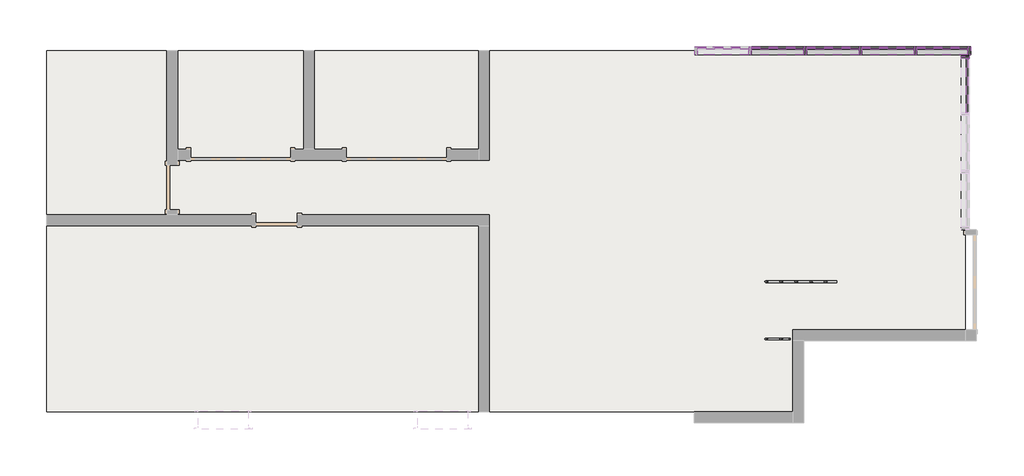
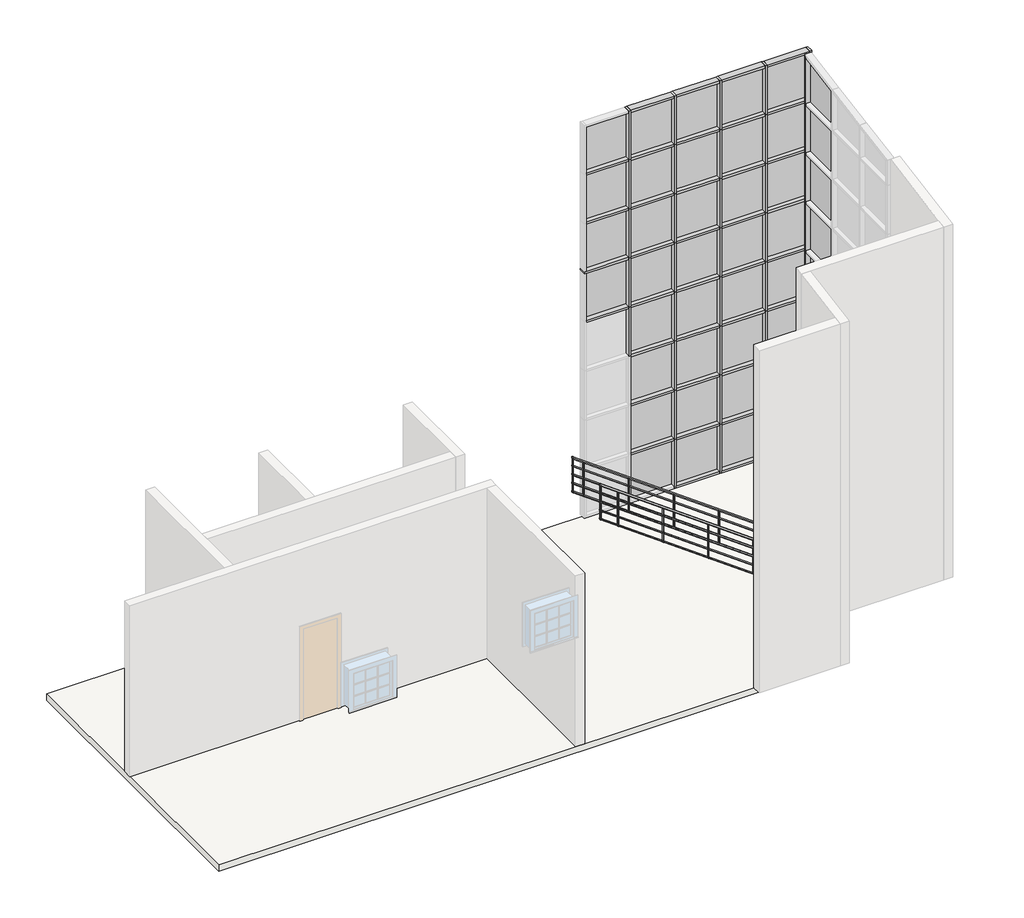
# One storey, part 2 of 2: 85 members, 44 plates, 2 railings, 1 slab.
"""IFC4 building model written with IfcOpenShell, lengths in millimetres."""

from ifc_helpers import new_model, si_unit, frame, origin, place, context, project, spatial, polyline, outline, extrude, transform, mapped, element, save
from components import member_50_x_150mm_038a97c0, member_50_x_150mm_b8228058, member_50_x_150mm_b83a1f72, member_50_x_150mm_bdf0faf1, member_50_x_150mm_050e1f32, member_50_x_150mm_622a95de, member_50_x_150mm_cac3cb24, member_50_x_150mm_0444148a, member_50_x_150mm_aa95aaac, member_50_x_150mm_ebe7889a, plate_c1ab5d1c, plate_5f0fc48b, plate_96cb0325, plate_49ade304, plate_24954efb, plate_39faa012, plate_04f62988, railing_fe238c61, railing_91144622

model = new_model("IFC4")

# Units and contexts
model_context = context("Model", 3, world=origin())
ifc_project = project(units=[si_unit("LENGTHUNIT", "METRE", prefix="MILLI")], contexts=[model_context])

# Site, building, storey
site = spatial("IfcSite", under=ifc_project)
building = spatial("IfcBuilding", under=site)
storey = spatial("IfcBuildingStorey", under=building, Name="01 下方樓層", Elevation=-4000.0)

# Members
placement = place(None, origin())
member_50_x_150mm_shape = member_50_x_150mm_038a97c0(model_context)
element("IfcMember", 1, ObjectType="矩形豎框 : 50 x 150mm", at=placement, inside=storey, context=model_context, shape_type="MappedRepresentation", body=[
    mapped(member_50_x_150mm_shape, transform((10552.9445117, 700.8362183, -4000.0), x_axis=(0.0, 0.0, -1.0), y_axis=(-1.0, 0.0, 0.0), z_axis=(0.0, 1.0, 0.0))),
])
member_50_x_150mm_2_shape = member_50_x_150mm_b8228058(model_context)
element("IfcMember", 2, ObjectType="矩形豎框 : 50 x 150mm", at=placement, inside=storey, context=model_context, shape_type="MappedRepresentation", body=[
    mapped(member_50_x_150mm_2_shape, transform((10552.9445117, 750.8362183, 5181.3907707), x_axis=(0.0, 1.0, 0.0), y_axis=(-1.0, 0.0, 0.0), z_axis=(0.0, 0.0, 1.0))),
])
member_50_x_150mm_3_shape = member_50_x_150mm_b83a1f72(model_context)
element("IfcMember", 3, ObjectType="矩形豎框 : 50 x 150mm", at=placement, inside=storey, context=model_context, shape_type="MappedRepresentation", body=[
    mapped(member_50_x_150mm_3_shape, transform((10552.9445117, 750.8362183, -2852.3261537), x_axis=(0.0, 1.0, 0.0), y_axis=(-1.0, 0.0, 0.0), z_axis=(0.0, 0.0, 1.0))),
])
element("IfcMember", 4, ObjectType="矩形豎框 : 50 x 150mm", at=placement, inside=storey, context=model_context, shape_type="MappedRepresentation", body=[
    mapped(member_50_x_150mm_3_shape, transform((10552.9445117, 750.8362183, -1704.6523073), x_axis=(0.0, 1.0, 0.0), y_axis=(-1.0, 0.0, 0.0), z_axis=(0.0, 0.0, 1.0))),
])
element("IfcMember", 5, ObjectType="矩形豎框 : 50 x 150mm", at=placement, inside=storey, context=model_context, shape_type="MappedRepresentation", body=[
    mapped(member_50_x_150mm_3_shape, transform((10552.9445117, 750.8362183, -556.978461), x_axis=(0.0, 1.0, 0.0), y_axis=(-1.0, 0.0, 0.0), z_axis=(0.0, 0.0, 1.0))),
])
element("IfcMember", 6, ObjectType="矩形豎框 : 50 x 150mm", at=placement, inside=storey, context=model_context, shape_type="MappedRepresentation", body=[
    mapped(member_50_x_150mm_3_shape, transform((10552.9445117, 750.8362183, 590.6953854), x_axis=(0.0, 1.0, 0.0), y_axis=(-1.0, 0.0, 0.0), z_axis=(0.0, 0.0, 1.0))),
])
element("IfcMember", 7, ObjectType="矩形豎框 : 50 x 150mm", at=placement, inside=storey, context=model_context, shape_type="MappedRepresentation", body=[
    mapped(member_50_x_150mm_3_shape, transform((10552.9445117, 750.8362183, 1738.3692317), x_axis=(0.0, 1.0, 0.0), y_axis=(-1.0, 0.0, 0.0), z_axis=(0.0, 0.0, 1.0))),
])
element("IfcMember", 8, ObjectType="矩形豎框 : 50 x 150mm", at=placement, inside=storey, context=model_context, shape_type="MappedRepresentation", body=[
    mapped(member_50_x_150mm_3_shape, transform((10552.9445117, 750.8362183, 2886.0430781), x_axis=(0.0, 1.0, 0.0), y_axis=(-1.0, 0.0, 0.0), z_axis=(0.0, 0.0, 1.0))),
])
element("IfcMember", 9, ObjectType="矩形豎框 : 50 x 150mm", at=placement, inside=storey, context=model_context, shape_type="MappedRepresentation", body=[
    mapped(member_50_x_150mm_3_shape, transform((10552.9445117, 750.8362183, 4033.7169244), x_axis=(0.0, 1.0, 0.0), y_axis=(-1.0, 0.0, 0.0), z_axis=(0.0, 0.0, 1.0))),
])
member_50_x_150mm_4_shape = member_50_x_150mm_bdf0faf1(model_context)
element("IfcMember", 10, ObjectType="矩形豎框 : 50 x 150mm", at=placement, inside=storey, context=model_context, shape_type="MappedRepresentation", body=[
    mapped(member_50_x_150mm_4_shape, transform((10602.9445117, 850.8362183, 5199.0234688), x_axis=(0.0, 0.0, 1.0), y_axis=(0.0, -1.0, 0.0), z_axis=(1.0, 0.0, 0.0))),
])
element("IfcMember", 11, ObjectType="矩形豎框 : 50 x 150mm", at=placement, inside=storey, context=model_context, shape_type="MappedRepresentation", body=[
    mapped(member_50_x_150mm_4_shape, transform((9669.784917, 850.8362183, -4000.0), x_axis=(0.0, 0.0, -1.0), y_axis=(0.0, -1.0, 0.0), z_axis=(-1.0, 0.0, 0.0))),
])
member_50_x_150mm_5_shape = member_50_x_150mm_050e1f32(model_context)
element("IfcMember", 12, ObjectType="矩形豎框 : 50 x 150mm", at=placement, inside=storey, context=model_context, shape_type="MappedRepresentation", body=[
    mapped(member_50_x_150mm_5_shape, transform((10652.9445117, 850.8362183, -4000.0), x_axis=(1.0, 0.0, 0.0), y_axis=(0.0, -1.0, 0.0), z_axis=(0.0, 0.0, -1.0))),
])
member_50_x_150mm_6_shape = member_50_x_150mm_622a95de(model_context)
element("IfcMember", 13, ObjectType="矩形豎框 : 50 x 150mm", at=placement, inside=storey, context=model_context, shape_type="MappedRepresentation", body=[
    mapped(member_50_x_150mm_6_shape, transform((7603.4657277, 850.8362183, 5199.0234688), x_axis=(0.0, 0.0, 1.0), y_axis=(0.0, -1.0, 0.0), z_axis=(1.0, 0.0, 0.0))),
])
element("IfcMember", 14, ObjectType="矩形豎框 : 50 x 150mm", at=placement, inside=storey, context=model_context, shape_type="MappedRepresentation", body=[
    mapped(member_50_x_150mm_6_shape, transform((8611.6253224, 850.8362183, 5199.0234688), x_axis=(0.0, 0.0, 1.0), y_axis=(0.0, -1.0, 0.0), z_axis=(1.0, 0.0, 0.0))),
])
element("IfcMember", 15, ObjectType="矩形豎框 : 50 x 150mm", at=placement, inside=storey, context=model_context, shape_type="MappedRepresentation", body=[
    mapped(member_50_x_150mm_6_shape, transform((9619.784917, 850.8362183, 5199.0234688), x_axis=(0.0, 0.0, 1.0), y_axis=(0.0, -1.0, 0.0), z_axis=(1.0, 0.0, 0.0))),
])
element("IfcMember", 16, ObjectType="矩形豎框 : 50 x 150mm", at=placement, inside=storey, context=model_context, shape_type="MappedRepresentation", body=[
    mapped(member_50_x_150mm_6_shape, transform((7653.4657277, 850.8362183, -4000.0), x_axis=(0.0, 0.0, -1.0), y_axis=(0.0, -1.0, 0.0), z_axis=(-1.0, 0.0, 0.0))),
])
element("IfcMember", 17, ObjectType="矩形豎框 : 50 x 150mm", at=placement, inside=storey, context=model_context, shape_type="MappedRepresentation", body=[
    mapped(member_50_x_150mm_6_shape, transform((8661.6253224, 850.8362183, -4000.0), x_axis=(0.0, 0.0, -1.0), y_axis=(0.0, -1.0, 0.0), z_axis=(-1.0, 0.0, 0.0))),
])
element("IfcMember", 18, ObjectType="矩形豎框 : 50 x 150mm", at=placement, inside=storey, context=model_context, shape_type="MappedRepresentation", body=[
    mapped(member_50_x_150mm_5_shape, transform((10652.9445117, 850.8362183, -2850.1220664), x_axis=(1.0, 0.0, 0.0), y_axis=(0.0, -1.0, 0.0), z_axis=(0.0, 0.0, -1.0))),
])
element("IfcMember", 19, ObjectType="矩形豎框 : 50 x 150mm", at=placement, inside=storey, context=model_context, shape_type="MappedRepresentation", body=[
    mapped(member_50_x_150mm_5_shape, transform((10652.9445117, 850.8362183, -1700.2441328), x_axis=(1.0, 0.0, 0.0), y_axis=(0.0, -1.0, 0.0), z_axis=(0.0, 0.0, -1.0))),
])
element("IfcMember", 20, ObjectType="矩形豎框 : 50 x 150mm", at=placement, inside=storey, context=model_context, shape_type="MappedRepresentation", body=[
    mapped(member_50_x_150mm_5_shape, transform((10652.9445117, 850.8362183, -550.3661992), x_axis=(1.0, 0.0, 0.0), y_axis=(0.0, -1.0, 0.0), z_axis=(0.0, 0.0, -1.0))),
])
element("IfcMember", 21, ObjectType="矩形豎框 : 50 x 150mm", at=placement, inside=storey, context=model_context, shape_type="MappedRepresentation", body=[
    mapped(member_50_x_150mm_5_shape, transform((10652.9445117, 850.8362183, 599.5117344), x_axis=(1.0, 0.0, 0.0), y_axis=(0.0, -1.0, 0.0), z_axis=(0.0, 0.0, -1.0))),
])
element("IfcMember", 22, ObjectType="矩形豎框 : 50 x 150mm", at=placement, inside=storey, context=model_context, shape_type="MappedRepresentation", body=[
    mapped(member_50_x_150mm_5_shape, transform((10652.9445117, 850.8362183, 1749.389668), x_axis=(1.0, 0.0, 0.0), y_axis=(0.0, -1.0, 0.0), z_axis=(0.0, 0.0, -1.0))),
])
element("IfcMember", 23, ObjectType="矩形豎框 : 50 x 150mm", at=placement, inside=storey, context=model_context, shape_type="MappedRepresentation", body=[
    mapped(member_50_x_150mm_5_shape, transform((10652.9445117, 850.8362183, 2899.2676016), x_axis=(1.0, 0.0, 0.0), y_axis=(0.0, -1.0, 0.0), z_axis=(0.0, 0.0, -1.0))),
])
member_50_x_150mm_7_shape = member_50_x_150mm_cac3cb24(model_context)
element("IfcMember", 24, ObjectType="矩形豎框 : 50 x 150mm", at=placement, inside=storey, context=model_context, shape_type="MappedRepresentation", body=[
    mapped(member_50_x_150mm_7_shape, transform((10602.9445117, 850.8362183, -2850.1220664), x_axis=(0.0, 0.0, 1.0), y_axis=(0.0, -1.0, 0.0), z_axis=(1.0, 0.0, 0.0))),
])
element("IfcMember", 25, ObjectType="矩形豎框 : 50 x 150mm", at=placement, inside=storey, context=model_context, shape_type="MappedRepresentation", body=[
    mapped(member_50_x_150mm_7_shape, transform((10602.9445117, 850.8362183, -1700.2441328), x_axis=(0.0, 0.0, 1.0), y_axis=(0.0, -1.0, 0.0), z_axis=(1.0, 0.0, 0.0))),
])
element("IfcMember", 26, ObjectType="矩形豎框 : 50 x 150mm", at=placement, inside=storey, context=model_context, shape_type="MappedRepresentation", body=[
    mapped(member_50_x_150mm_7_shape, transform((10602.9445117, 850.8362183, -550.3661992), x_axis=(0.0, 0.0, 1.0), y_axis=(0.0, -1.0, 0.0), z_axis=(1.0, 0.0, 0.0))),
])
element("IfcMember", 27, ObjectType="矩形豎框 : 50 x 150mm", at=placement, inside=storey, context=model_context, shape_type="MappedRepresentation", body=[
    mapped(member_50_x_150mm_7_shape, transform((6595.3061331, 850.8362183, 599.5117344), x_axis=(0.0, 0.0, 1.0), y_axis=(0.0, -1.0, 0.0), z_axis=(1.0, 0.0, 0.0))),
])
element("IfcMember", 28, ObjectType="矩形豎框 : 50 x 150mm", at=placement, inside=storey, context=model_context, shape_type="MappedRepresentation", body=[
    mapped(member_50_x_150mm_7_shape, transform((10602.9445117, 850.8362183, 599.5117344), x_axis=(0.0, 0.0, 1.0), y_axis=(0.0, -1.0, 0.0), z_axis=(1.0, 0.0, 0.0))),
])
element("IfcMember", 29, ObjectType="矩形豎框 : 50 x 150mm", at=placement, inside=storey, context=model_context, shape_type="MappedRepresentation", body=[
    mapped(member_50_x_150mm_7_shape, transform((10602.9445117, 850.8362183, 1749.389668), x_axis=(0.0, 0.0, 1.0), y_axis=(0.0, -1.0, 0.0), z_axis=(1.0, 0.0, 0.0))),
])
element("IfcMember", 30, ObjectType="矩形豎框 : 50 x 150mm", at=placement, inside=storey, context=model_context, shape_type="MappedRepresentation", body=[
    mapped(member_50_x_150mm_7_shape, transform((6595.3061331, 850.8362183, 2899.2676016), x_axis=(0.0, 0.0, 1.0), y_axis=(0.0, -1.0, 0.0), z_axis=(1.0, 0.0, 0.0))),
])
element("IfcMember", 31, ObjectType="矩形豎框 : 50 x 150mm", at=placement, inside=storey, context=model_context, shape_type="MappedRepresentation", body=[
    mapped(member_50_x_150mm_7_shape, transform((10602.9445117, 850.8362183, 2899.2676016), x_axis=(0.0, 0.0, 1.0), y_axis=(0.0, -1.0, 0.0), z_axis=(1.0, 0.0, 0.0))),
])
element("IfcMember", 32, ObjectType="矩形豎框 : 50 x 150mm", at=placement, inside=storey, context=model_context, shape_type="MappedRepresentation", body=[
    mapped(member_50_x_150mm_7_shape, transform((6595.3061331, 850.8362183, 4049.1455352), x_axis=(0.0, 0.0, 1.0), y_axis=(0.0, -1.0, 0.0), z_axis=(1.0, 0.0, 0.0))),
])
element("IfcMember", 33, ObjectType="矩形豎框 : 50 x 150mm", at=placement, inside=storey, context=model_context, shape_type="MappedRepresentation", body=[
    mapped(member_50_x_150mm_7_shape, transform((10602.9445117, 850.8362183, 4049.1455352), x_axis=(0.0, 0.0, 1.0), y_axis=(0.0, -1.0, 0.0), z_axis=(1.0, 0.0, 0.0))),
])
member_50_x_150mm_8_shape = member_50_x_150mm_0444148a(model_context)
element("IfcMember", 34, ObjectType="矩形豎框 : 50 x 150mm", at=placement, inside=storey, context=model_context, shape_type="MappedRepresentation", body=[
    mapped(member_50_x_150mm_8_shape, transform((7603.4657277, 850.8362183, -2850.1220664), x_axis=(0.0, 0.0, 1.0), y_axis=(0.0, -1.0, 0.0), z_axis=(1.0, 0.0, 0.0))),
])
element("IfcMember", 35, ObjectType="矩形豎框 : 50 x 150mm", at=placement, inside=storey, context=model_context, shape_type="MappedRepresentation", body=[
    mapped(member_50_x_150mm_8_shape, transform((8611.6253224, 850.8362183, -2850.1220664), x_axis=(0.0, 0.0, 1.0), y_axis=(0.0, -1.0, 0.0), z_axis=(1.0, 0.0, 0.0))),
])
element("IfcMember", 36, ObjectType="矩形豎框 : 50 x 150mm", at=placement, inside=storey, context=model_context, shape_type="MappedRepresentation", body=[
    mapped(member_50_x_150mm_8_shape, transform((9619.784917, 850.8362183, -2850.1220664), x_axis=(0.0, 0.0, 1.0), y_axis=(0.0, -1.0, 0.0), z_axis=(1.0, 0.0, 0.0))),
])
element("IfcMember", 37, ObjectType="矩形豎框 : 50 x 150mm", at=placement, inside=storey, context=model_context, shape_type="MappedRepresentation", body=[
    mapped(member_50_x_150mm_8_shape, transform((7603.4657277, 850.8362183, -1700.2441328), x_axis=(0.0, 0.0, 1.0), y_axis=(0.0, -1.0, 0.0), z_axis=(1.0, 0.0, 0.0))),
])
element("IfcMember", 38, ObjectType="矩形豎框 : 50 x 150mm", at=placement, inside=storey, context=model_context, shape_type="MappedRepresentation", body=[
    mapped(member_50_x_150mm_8_shape, transform((8611.6253224, 850.8362183, -1700.2441328), x_axis=(0.0, 0.0, 1.0), y_axis=(0.0, -1.0, 0.0), z_axis=(1.0, 0.0, 0.0))),
])
element("IfcMember", 39, ObjectType="矩形豎框 : 50 x 150mm", at=placement, inside=storey, context=model_context, shape_type="MappedRepresentation", body=[
    mapped(member_50_x_150mm_8_shape, transform((9619.784917, 850.8362183, -1700.2441328), x_axis=(0.0, 0.0, 1.0), y_axis=(0.0, -1.0, 0.0), z_axis=(1.0, 0.0, 0.0))),
])
element("IfcMember", 40, ObjectType="矩形豎框 : 50 x 150mm", at=placement, inside=storey, context=model_context, shape_type="MappedRepresentation", body=[
    mapped(member_50_x_150mm_8_shape, transform((7603.4657277, 850.8362183, -550.3661992), x_axis=(0.0, 0.0, 1.0), y_axis=(0.0, -1.0, 0.0), z_axis=(1.0, 0.0, 0.0))),
])
element("IfcMember", 41, ObjectType="矩形豎框 : 50 x 150mm", at=placement, inside=storey, context=model_context, shape_type="MappedRepresentation", body=[
    mapped(member_50_x_150mm_8_shape, transform((8611.6253224, 850.8362183, -550.3661992), x_axis=(0.0, 0.0, 1.0), y_axis=(0.0, -1.0, 0.0), z_axis=(1.0, 0.0, 0.0))),
])
element("IfcMember", 42, ObjectType="矩形豎框 : 50 x 150mm", at=placement, inside=storey, context=model_context, shape_type="MappedRepresentation", body=[
    mapped(member_50_x_150mm_8_shape, transform((9619.784917, 850.8362183, -550.3661992), x_axis=(0.0, 0.0, 1.0), y_axis=(0.0, -1.0, 0.0), z_axis=(1.0, 0.0, 0.0))),
])
element("IfcMember", 43, ObjectType="矩形豎框 : 50 x 150mm", at=placement, inside=storey, context=model_context, shape_type="MappedRepresentation", body=[
    mapped(member_50_x_150mm_8_shape, transform((7603.4657277, 850.8362183, 599.5117344), x_axis=(0.0, 0.0, 1.0), y_axis=(0.0, -1.0, 0.0), z_axis=(1.0, 0.0, 0.0))),
])
element("IfcMember", 44, ObjectType="矩形豎框 : 50 x 150mm", at=placement, inside=storey, context=model_context, shape_type="MappedRepresentation", body=[
    mapped(member_50_x_150mm_8_shape, transform((8611.6253224, 850.8362183, 599.5117344), x_axis=(0.0, 0.0, 1.0), y_axis=(0.0, -1.0, 0.0), z_axis=(1.0, 0.0, 0.0))),
])
element("IfcMember", 45, ObjectType="矩形豎框 : 50 x 150mm", at=placement, inside=storey, context=model_context, shape_type="MappedRepresentation", body=[
    mapped(member_50_x_150mm_8_shape, transform((9619.784917, 850.8362183, 599.5117344), x_axis=(0.0, 0.0, 1.0), y_axis=(0.0, -1.0, 0.0), z_axis=(1.0, 0.0, 0.0))),
])
element("IfcMember", 46, ObjectType="矩形豎框 : 50 x 150mm", at=placement, inside=storey, context=model_context, shape_type="MappedRepresentation", body=[
    mapped(member_50_x_150mm_8_shape, transform((7603.4657277, 850.8362183, 1749.389668), x_axis=(0.0, 0.0, 1.0), y_axis=(0.0, -1.0, 0.0), z_axis=(1.0, 0.0, 0.0))),
])
element("IfcMember", 47, ObjectType="矩形豎框 : 50 x 150mm", at=placement, inside=storey, context=model_context, shape_type="MappedRepresentation", body=[
    mapped(member_50_x_150mm_8_shape, transform((8611.6253224, 850.8362183, 1749.389668), x_axis=(0.0, 0.0, 1.0), y_axis=(0.0, -1.0, 0.0), z_axis=(1.0, 0.0, 0.0))),
])
element("IfcMember", 48, ObjectType="矩形豎框 : 50 x 150mm", at=placement, inside=storey, context=model_context, shape_type="MappedRepresentation", body=[
    mapped(member_50_x_150mm_8_shape, transform((9619.784917, 850.8362183, 1749.389668), x_axis=(0.0, 0.0, 1.0), y_axis=(0.0, -1.0, 0.0), z_axis=(1.0, 0.0, 0.0))),
])
element("IfcMember", 49, ObjectType="矩形豎框 : 50 x 150mm", at=placement, inside=storey, context=model_context, shape_type="MappedRepresentation", body=[
    mapped(member_50_x_150mm_8_shape, transform((7603.4657277, 850.8362183, 2899.2676016), x_axis=(0.0, 0.0, 1.0), y_axis=(0.0, -1.0, 0.0), z_axis=(1.0, 0.0, 0.0))),
])
element("IfcMember", 50, ObjectType="矩形豎框 : 50 x 150mm", at=placement, inside=storey, context=model_context, shape_type="MappedRepresentation", body=[
    mapped(member_50_x_150mm_8_shape, transform((8611.6253224, 850.8362183, 2899.2676016), x_axis=(0.0, 0.0, 1.0), y_axis=(0.0, -1.0, 0.0), z_axis=(1.0, 0.0, 0.0))),
])
element("IfcMember", 51, ObjectType="矩形豎框 : 50 x 150mm", at=placement, inside=storey, context=model_context, shape_type="MappedRepresentation", body=[
    mapped(member_50_x_150mm_8_shape, transform((9619.784917, 850.8362183, 2899.2676016), x_axis=(0.0, 0.0, 1.0), y_axis=(0.0, -1.0, 0.0), z_axis=(1.0, 0.0, 0.0))),
])
element("IfcMember", 52, ObjectType="矩形豎框 : 50 x 150mm", at=placement, inside=storey, context=model_context, shape_type="MappedRepresentation", body=[
    mapped(member_50_x_150mm_8_shape, transform((7603.4657277, 850.8362183, 4049.1455352), x_axis=(0.0, 0.0, 1.0), y_axis=(0.0, -1.0, 0.0), z_axis=(1.0, 0.0, 0.0))),
])
element("IfcMember", 53, ObjectType="矩形豎框 : 50 x 150mm", at=placement, inside=storey, context=model_context, shape_type="MappedRepresentation", body=[
    mapped(member_50_x_150mm_8_shape, transform((8611.6253224, 850.8362183, 4049.1455352), x_axis=(0.0, 0.0, 1.0), y_axis=(0.0, -1.0, 0.0), z_axis=(1.0, 0.0, 0.0))),
])
element("IfcMember", 54, ObjectType="矩形豎框 : 50 x 150mm", at=placement, inside=storey, context=model_context, shape_type="MappedRepresentation", body=[
    mapped(member_50_x_150mm_8_shape, transform((9619.784917, 850.8362183, 4049.1455352), x_axis=(0.0, 0.0, 1.0), y_axis=(0.0, -1.0, 0.0), z_axis=(1.0, 0.0, 0.0))),
])
member_50_x_150mm_9_shape = member_50_x_150mm_aa95aaac(model_context)
element("IfcMember", 55, ObjectType="矩形豎框 : 50 x 150mm", at=placement, inside=storey, context=model_context, shape_type="MappedRepresentation", body=[
    mapped(member_50_x_150mm_9_shape, transform((7628.4657277, 850.8362183, -4000.0), x_axis=(1.0, 0.0, 0.0), y_axis=(0.0, -1.0, 0.0), z_axis=(0.0, 0.0, -1.0))),
])
element("IfcMember", 56, ObjectType="矩形豎框 : 50 x 150mm", at=placement, inside=storey, context=model_context, shape_type="MappedRepresentation", body=[
    mapped(member_50_x_150mm_9_shape, transform((8636.6253224, 850.8362183, -4000.0), x_axis=(1.0, 0.0, 0.0), y_axis=(0.0, -1.0, 0.0), z_axis=(0.0, 0.0, -1.0))),
])
element("IfcMember", 57, ObjectType="矩形豎框 : 50 x 150mm", at=placement, inside=storey, context=model_context, shape_type="MappedRepresentation", body=[
    mapped(member_50_x_150mm_9_shape, transform((9644.784917, 850.8362183, -4000.0), x_axis=(1.0, 0.0, 0.0), y_axis=(0.0, -1.0, 0.0), z_axis=(0.0, 0.0, -1.0))),
])
element("IfcMember", 58, ObjectType="矩形豎框 : 50 x 150mm", at=placement, inside=storey, context=model_context, shape_type="MappedRepresentation", body=[
    mapped(member_50_x_150mm_9_shape, transform((7628.4657277, 850.8362183, -2850.1220664), x_axis=(1.0, 0.0, 0.0), y_axis=(0.0, -1.0, 0.0), z_axis=(0.0, 0.0, -1.0))),
])
element("IfcMember", 59, ObjectType="矩形豎框 : 50 x 150mm", at=placement, inside=storey, context=model_context, shape_type="MappedRepresentation", body=[
    mapped(member_50_x_150mm_9_shape, transform((8636.6253224, 850.8362183, -2850.1220664), x_axis=(1.0, 0.0, 0.0), y_axis=(0.0, -1.0, 0.0), z_axis=(0.0, 0.0, -1.0))),
])
element("IfcMember", 60, ObjectType="矩形豎框 : 50 x 150mm", at=placement, inside=storey, context=model_context, shape_type="MappedRepresentation", body=[
    mapped(member_50_x_150mm_9_shape, transform((7628.4657277, 850.8362183, -1700.2441328), x_axis=(1.0, 0.0, 0.0), y_axis=(0.0, -1.0, 0.0), z_axis=(0.0, 0.0, -1.0))),
])
element("IfcMember", 61, ObjectType="矩形豎框 : 50 x 150mm", at=placement, inside=storey, context=model_context, shape_type="MappedRepresentation", body=[
    mapped(member_50_x_150mm_9_shape, transform((8636.6253224, 850.8362183, -1700.2441328), x_axis=(1.0, 0.0, 0.0), y_axis=(0.0, -1.0, 0.0), z_axis=(0.0, 0.0, -1.0))),
])
element("IfcMember", 62, ObjectType="矩形豎框 : 50 x 150mm", at=placement, inside=storey, context=model_context, shape_type="MappedRepresentation", body=[
    mapped(member_50_x_150mm_9_shape, transform((6620.3061331, 850.8362183, -550.3661992), x_axis=(1.0, 0.0, 0.0), y_axis=(0.0, -1.0, 0.0), z_axis=(0.0, 0.0, -1.0))),
])
element("IfcMember", 63, ObjectType="矩形豎框 : 50 x 150mm", at=placement, inside=storey, context=model_context, shape_type="MappedRepresentation", body=[
    mapped(member_50_x_150mm_9_shape, transform((7628.4657277, 850.8362183, -550.3661992), x_axis=(1.0, 0.0, 0.0), y_axis=(0.0, -1.0, 0.0), z_axis=(0.0, 0.0, -1.0))),
])
element("IfcMember", 64, ObjectType="矩形豎框 : 50 x 150mm", at=placement, inside=storey, context=model_context, shape_type="MappedRepresentation", body=[
    mapped(member_50_x_150mm_9_shape, transform((8636.6253224, 850.8362183, -550.3661992), x_axis=(1.0, 0.0, 0.0), y_axis=(0.0, -1.0, 0.0), z_axis=(0.0, 0.0, -1.0))),
])
element("IfcMember", 65, ObjectType="矩形豎框 : 50 x 150mm", at=placement, inside=storey, context=model_context, shape_type="MappedRepresentation", body=[
    mapped(member_50_x_150mm_9_shape, transform((6620.3061331, 850.8362183, 599.5117344), x_axis=(1.0, 0.0, 0.0), y_axis=(0.0, -1.0, 0.0), z_axis=(0.0, 0.0, -1.0))),
])
element("IfcMember", 66, ObjectType="矩形豎框 : 50 x 150mm", at=placement, inside=storey, context=model_context, shape_type="MappedRepresentation", body=[
    mapped(member_50_x_150mm_9_shape, transform((6620.3061331, 850.8362183, 1749.389668), x_axis=(1.0, 0.0, 0.0), y_axis=(0.0, -1.0, 0.0), z_axis=(0.0, 0.0, -1.0))),
])
element("IfcMember", 67, ObjectType="矩形豎框 : 50 x 150mm", at=placement, inside=storey, context=model_context, shape_type="MappedRepresentation", body=[
    mapped(member_50_x_150mm_9_shape, transform((6620.3061331, 850.8362183, 2899.2676016), x_axis=(1.0, 0.0, 0.0), y_axis=(0.0, -1.0, 0.0), z_axis=(0.0, 0.0, -1.0))),
])
element("IfcMember", 68, ObjectType="矩形豎框 : 50 x 150mm", at=placement, inside=storey, context=model_context, shape_type="MappedRepresentation", body=[
    mapped(member_50_x_150mm_9_shape, transform((7628.4657277, 850.8362183, 599.5117344), x_axis=(1.0, 0.0, 0.0), y_axis=(0.0, -1.0, 0.0), z_axis=(0.0, 0.0, -1.0))),
])
element("IfcMember", 69, ObjectType="矩形豎框 : 50 x 150mm", at=placement, inside=storey, context=model_context, shape_type="MappedRepresentation", body=[
    mapped(member_50_x_150mm_9_shape, transform((7628.4657277, 850.8362183, 1749.389668), x_axis=(1.0, 0.0, 0.0), y_axis=(0.0, -1.0, 0.0), z_axis=(0.0, 0.0, -1.0))),
])
element("IfcMember", 70, ObjectType="矩形豎框 : 50 x 150mm", at=placement, inside=storey, context=model_context, shape_type="MappedRepresentation", body=[
    mapped(member_50_x_150mm_9_shape, transform((7628.4657277, 850.8362183, 2899.2676016), x_axis=(1.0, 0.0, 0.0), y_axis=(0.0, -1.0, 0.0), z_axis=(0.0, 0.0, -1.0))),
])
element("IfcMember", 71, ObjectType="矩形豎框 : 50 x 150mm", at=placement, inside=storey, context=model_context, shape_type="MappedRepresentation", body=[
    mapped(member_50_x_150mm_9_shape, transform((8636.6253224, 850.8362183, 599.5117344), x_axis=(1.0, 0.0, 0.0), y_axis=(0.0, -1.0, 0.0), z_axis=(0.0, 0.0, -1.0))),
])
element("IfcMember", 72, ObjectType="矩形豎框 : 50 x 150mm", at=placement, inside=storey, context=model_context, shape_type="MappedRepresentation", body=[
    mapped(member_50_x_150mm_9_shape, transform((8636.6253224, 850.8362183, 1749.389668), x_axis=(1.0, 0.0, 0.0), y_axis=(0.0, -1.0, 0.0), z_axis=(0.0, 0.0, -1.0))),
])
element("IfcMember", 73, ObjectType="矩形豎框 : 50 x 150mm", at=placement, inside=storey, context=model_context, shape_type="MappedRepresentation", body=[
    mapped(member_50_x_150mm_9_shape, transform((8636.6253224, 850.8362183, 2899.2676016), x_axis=(1.0, 0.0, 0.0), y_axis=(0.0, -1.0, 0.0), z_axis=(0.0, 0.0, -1.0))),
])
element("IfcMember", 74, ObjectType="矩形豎框 : 50 x 150mm", at=placement, inside=storey, context=model_context, shape_type="MappedRepresentation", body=[
    mapped(member_50_x_150mm_9_shape, transform((9644.784917, 850.8362183, -2850.1220664), x_axis=(1.0, 0.0, 0.0), y_axis=(0.0, -1.0, 0.0), z_axis=(0.0, 0.0, -1.0))),
])
element("IfcMember", 75, ObjectType="矩形豎框 : 50 x 150mm", at=placement, inside=storey, context=model_context, shape_type="MappedRepresentation", body=[
    mapped(member_50_x_150mm_9_shape, transform((9644.784917, 850.8362183, -1700.2441328), x_axis=(1.0, 0.0, 0.0), y_axis=(0.0, -1.0, 0.0), z_axis=(0.0, 0.0, -1.0))),
])
element("IfcMember", 76, ObjectType="矩形豎框 : 50 x 150mm", at=placement, inside=storey, context=model_context, shape_type="MappedRepresentation", body=[
    mapped(member_50_x_150mm_9_shape, transform((9644.784917, 850.8362183, -550.3661992), x_axis=(1.0, 0.0, 0.0), y_axis=(0.0, -1.0, 0.0), z_axis=(0.0, 0.0, -1.0))),
])
element("IfcMember", 77, ObjectType="矩形豎框 : 50 x 150mm", at=placement, inside=storey, context=model_context, shape_type="MappedRepresentation", body=[
    mapped(member_50_x_150mm_9_shape, transform((9644.784917, 850.8362183, 599.5117344), x_axis=(1.0, 0.0, 0.0), y_axis=(0.0, -1.0, 0.0), z_axis=(0.0, 0.0, -1.0))),
])
element("IfcMember", 78, ObjectType="矩形豎框 : 50 x 150mm", at=placement, inside=storey, context=model_context, shape_type="MappedRepresentation", body=[
    mapped(member_50_x_150mm_9_shape, transform((9644.784917, 850.8362183, 1749.389668), x_axis=(1.0, 0.0, 0.0), y_axis=(0.0, -1.0, 0.0), z_axis=(0.0, 0.0, -1.0))),
])
element("IfcMember", 79, ObjectType="矩形豎框 : 50 x 150mm", at=placement, inside=storey, context=model_context, shape_type="MappedRepresentation", body=[
    mapped(member_50_x_150mm_9_shape, transform((9644.784917, 850.8362183, 2899.2676016), x_axis=(1.0, 0.0, 0.0), y_axis=(0.0, -1.0, 0.0), z_axis=(0.0, 0.0, -1.0))),
])
element("IfcMember", 80, ObjectType="矩形豎框 : 50 x 150mm", at=placement, inside=storey, context=model_context, shape_type="MappedRepresentation", body=[
    mapped(member_50_x_150mm_5_shape, transform((10652.9445117, 850.8362183, 4049.1455352), x_axis=(1.0, 0.0, 0.0), y_axis=(0.0, -1.0, 0.0), z_axis=(0.0, 0.0, -1.0))),
])
element("IfcMember", 81, ObjectType="矩形豎框 : 50 x 150mm", at=placement, inside=storey, context=model_context, shape_type="MappedRepresentation", body=[
    mapped(member_50_x_150mm_9_shape, transform((6620.3061331, 850.8362183, 4049.1455352), x_axis=(1.0, 0.0, 0.0), y_axis=(0.0, -1.0, 0.0), z_axis=(0.0, 0.0, -1.0))),
])
element("IfcMember", 82, ObjectType="矩形豎框 : 50 x 150mm", at=placement, inside=storey, context=model_context, shape_type="MappedRepresentation", body=[
    mapped(member_50_x_150mm_9_shape, transform((7628.4657277, 850.8362183, 4049.1455352), x_axis=(1.0, 0.0, 0.0), y_axis=(0.0, -1.0, 0.0), z_axis=(0.0, 0.0, -1.0))),
])
element("IfcMember", 83, ObjectType="矩形豎框 : 50 x 150mm", at=placement, inside=storey, context=model_context, shape_type="MappedRepresentation", body=[
    mapped(member_50_x_150mm_9_shape, transform((8636.6253224, 850.8362183, 4049.1455352), x_axis=(1.0, 0.0, 0.0), y_axis=(0.0, -1.0, 0.0), z_axis=(0.0, 0.0, -1.0))),
])
element("IfcMember", 84, ObjectType="矩形豎框 : 50 x 150mm", at=placement, inside=storey, context=model_context, shape_type="MappedRepresentation", body=[
    mapped(member_50_x_150mm_9_shape, transform((9644.784917, 850.8362183, 4049.1455352), x_axis=(1.0, 0.0, 0.0), y_axis=(0.0, -1.0, 0.0), z_axis=(0.0, 0.0, -1.0))),
])
member_50_x_150mm_10_shape = member_50_x_150mm_ebe7889a(model_context)
element("IfcMember", 85, ObjectType="矩形豎框 : 50 x 150mm", at=placement, inside=storey, context=model_context, shape_type="MappedRepresentation", body=[
    mapped(member_50_x_150mm_10_shape, transform((6595.3061331, 850.8362183, 1749.389668), x_axis=(0.0, 0.0, 1.0), y_axis=(0.0, -1.0, 0.0), z_axis=(1.0, 0.0, 0.0))),
])

# Plates
plate_shape = plate_c1ab5d1c(model_context)
element("IfcPlate", 86, ObjectType="系統嵌板 : 有玻璃的", at=placement, inside=storey, context=model_context, shape_type="MappedRepresentation", body=[
    mapped(plate_shape, transform((10552.9445117, 210.0028849, -3950.0), x_axis=(0.0, -1.0, 0.0), y_axis=(1.0, 0.0, 0.0), z_axis=(0.0, 0.0, 1.0))),
])
plate_2_shape = plate_5f0fc48b(model_context)
element("IfcPlate", 87, ObjectType="系統嵌板 : 有玻璃的", at=placement, inside=storey, context=model_context, shape_type="MappedRepresentation", body=[
    mapped(plate_2_shape, transform((10552.9445117, 210.0028849, -2827.3261537), x_axis=(0.0, -1.0, 0.0), y_axis=(1.0, 0.0, 0.0), z_axis=(0.0, 0.0, 1.0))),
])
element("IfcPlate", 88, ObjectType="系統嵌板 : 有玻璃的", at=placement, inside=storey, context=model_context, shape_type="MappedRepresentation", body=[
    mapped(plate_2_shape, transform((10552.9445117, 210.0028849, -1679.6523073), x_axis=(0.0, -1.0, 0.0), y_axis=(1.0, 0.0, 0.0), z_axis=(0.0, 0.0, 1.0))),
])
element("IfcPlate", 89, ObjectType="系統嵌板 : 有玻璃的", at=placement, inside=storey, context=model_context, shape_type="MappedRepresentation", body=[
    mapped(plate_2_shape, transform((10552.9445117, 210.0028849, -531.978461), x_axis=(0.0, -1.0, 0.0), y_axis=(1.0, 0.0, 0.0), z_axis=(0.0, 0.0, 1.0))),
])
element("IfcPlate", 90, ObjectType="系統嵌板 : 有玻璃的", at=placement, inside=storey, context=model_context, shape_type="MappedRepresentation", body=[
    mapped(plate_2_shape, transform((10552.9445117, 210.0028849, 615.6953854), x_axis=(0.0, -1.0, 0.0), y_axis=(1.0, 0.0, 0.0), z_axis=(0.0, 0.0, 1.0))),
])
element("IfcPlate", 91, ObjectType="系統嵌板 : 有玻璃的", at=placement, inside=storey, context=model_context, shape_type="MappedRepresentation", body=[
    mapped(plate_2_shape, transform((10552.9445117, 210.0028849, 1763.3692317), x_axis=(0.0, -1.0, 0.0), y_axis=(1.0, 0.0, 0.0), z_axis=(0.0, 0.0, 1.0))),
])
element("IfcPlate", 92, ObjectType="系統嵌板 : 有玻璃的", at=placement, inside=storey, context=model_context, shape_type="MappedRepresentation", body=[
    mapped(plate_2_shape, transform((10552.9445117, 210.0028849, 2911.0430781), x_axis=(0.0, -1.0, 0.0), y_axis=(1.0, 0.0, 0.0), z_axis=(0.0, 0.0, 1.0))),
])
plate_3_shape = plate_96cb0325(model_context)
element("IfcPlate", 93, ObjectType="系統嵌板 : 有玻璃的", at=placement, inside=storey, context=model_context, shape_type="MappedRepresentation", body=[
    mapped(plate_3_shape, transform((10552.9445117, 210.0028849, 4058.7169244), x_axis=(0.0, -1.0, 0.0), y_axis=(1.0, 0.0, 0.0), z_axis=(0.0, 0.0, 1.0))),
])
plate_4_shape = plate_49ade304(model_context)
element("IfcPlate", 94, ObjectType="系統嵌板 : 有玻璃的", at=placement, inside=storey, context=model_context, shape_type="MappedRepresentation", body=[
    mapped(plate_4_shape, transform((10136.3647143, 850.8362183, -3950.0), x_axis=(1.0, 0.0, 0.0), y_axis=(0.0, 1.0, 0.0), z_axis=(0.0, 0.0, 1.0))),
])
element("IfcPlate", 95, ObjectType="系統嵌板 : 有玻璃的", at=placement, inside=storey, context=model_context, shape_type="MappedRepresentation", body=[
    mapped(plate_4_shape, transform((6128.7263358, 850.8362183, 4074.1455352), x_axis=(1.0, 0.0, 0.0), y_axis=(0.0, 1.0, 0.0), z_axis=(0.0, 0.0, 1.0))),
])
element("IfcPlate", 96, ObjectType="系統嵌板 : 有玻璃的", at=placement, inside=storey, context=model_context, shape_type="MappedRepresentation", body=[
    mapped(plate_4_shape, transform((10136.3647143, 850.8362183, 4074.1455352), x_axis=(1.0, 0.0, 0.0), y_axis=(0.0, 1.0, 0.0), z_axis=(0.0, 0.0, 1.0))),
])
plate_5_shape = plate_24954efb(model_context)
element("IfcPlate", 97, ObjectType="系統嵌板 : 有玻璃的", at=placement, inside=storey, context=model_context, shape_type="MappedRepresentation", body=[
    mapped(plate_5_shape, transform((7124.3859304, 850.8362183, -3950.0), x_axis=(1.0, 0.0, 0.0), y_axis=(0.0, 1.0, 0.0), z_axis=(0.0, 0.0, 1.0))),
])
element("IfcPlate", 98, ObjectType="系統嵌板 : 有玻璃的", at=placement, inside=storey, context=model_context, shape_type="MappedRepresentation", body=[
    mapped(plate_5_shape, transform((8132.545525, 850.8362183, -3950.0), x_axis=(1.0, 0.0, 0.0), y_axis=(0.0, 1.0, 0.0), z_axis=(0.0, 0.0, 1.0))),
])
element("IfcPlate", 99, ObjectType="系統嵌板 : 有玻璃的", at=placement, inside=storey, context=model_context, shape_type="MappedRepresentation", body=[
    mapped(plate_5_shape, transform((9140.7051197, 850.8362183, -3950.0), x_axis=(1.0, 0.0, 0.0), y_axis=(0.0, 1.0, 0.0), z_axis=(0.0, 0.0, 1.0))),
])
element("IfcPlate", 100, ObjectType="系統嵌板 : 有玻璃的", at=placement, inside=storey, context=model_context, shape_type="MappedRepresentation", body=[
    mapped(plate_5_shape, transform((7124.3859304, 850.8362183, 4074.1455352), x_axis=(1.0, 0.0, 0.0), y_axis=(0.0, 1.0, 0.0), z_axis=(0.0, 0.0, 1.0))),
])
element("IfcPlate", 101, ObjectType="系統嵌板 : 有玻璃的", at=placement, inside=storey, context=model_context, shape_type="MappedRepresentation", body=[
    mapped(plate_5_shape, transform((8132.545525, 850.8362183, 4074.1455352), x_axis=(1.0, 0.0, 0.0), y_axis=(0.0, 1.0, 0.0), z_axis=(0.0, 0.0, 1.0))),
])
element("IfcPlate", 102, ObjectType="系統嵌板 : 有玻璃的", at=placement, inside=storey, context=model_context, shape_type="MappedRepresentation", body=[
    mapped(plate_5_shape, transform((9140.7051197, 850.8362183, 4074.1455352), x_axis=(1.0, 0.0, 0.0), y_axis=(0.0, 1.0, 0.0), z_axis=(0.0, 0.0, 1.0))),
])
plate_6_shape = plate_39faa012(model_context)
element("IfcPlate", 103, ObjectType="系統嵌板 : 有玻璃的", at=placement, inside=storey, context=model_context, shape_type="MappedRepresentation", body=[
    mapped(plate_6_shape, transform((10136.3647143, 850.8362183, -2825.1220664), x_axis=(1.0, 0.0, 0.0), y_axis=(0.0, 1.0, 0.0), z_axis=(0.0, 0.0, 1.0))),
])
element("IfcPlate", 104, ObjectType="系統嵌板 : 有玻璃的", at=placement, inside=storey, context=model_context, shape_type="MappedRepresentation", body=[
    mapped(plate_6_shape, transform((10136.3647143, 850.8362183, -1675.2441328), x_axis=(1.0, 0.0, 0.0), y_axis=(0.0, 1.0, 0.0), z_axis=(0.0, 0.0, 1.0))),
])
element("IfcPlate", 105, ObjectType="系統嵌板 : 有玻璃的", at=placement, inside=storey, context=model_context, shape_type="MappedRepresentation", body=[
    mapped(plate_6_shape, transform((10136.3647143, 850.8362183, -525.3661992), x_axis=(1.0, 0.0, 0.0), y_axis=(0.0, 1.0, 0.0), z_axis=(0.0, 0.0, 1.0))),
])
element("IfcPlate", 106, ObjectType="系統嵌板 : 有玻璃的", at=placement, inside=storey, context=model_context, shape_type="MappedRepresentation", body=[
    mapped(plate_6_shape, transform((6128.7263358, 850.8362183, 624.5117344), x_axis=(1.0, 0.0, 0.0), y_axis=(0.0, 1.0, 0.0), z_axis=(0.0, 0.0, 1.0))),
])
element("IfcPlate", 107, ObjectType="系統嵌板 : 有玻璃的", at=placement, inside=storey, context=model_context, shape_type="MappedRepresentation", body=[
    mapped(plate_6_shape, transform((10136.3647143, 850.8362183, 624.5117344), x_axis=(1.0, 0.0, 0.0), y_axis=(0.0, 1.0, 0.0), z_axis=(0.0, 0.0, 1.0))),
])
element("IfcPlate", 108, ObjectType="系統嵌板 : 有玻璃的", at=placement, inside=storey, context=model_context, shape_type="MappedRepresentation", body=[
    mapped(plate_6_shape, transform((6128.7263358, 850.8362183, 1774.389668), x_axis=(1.0, 0.0, 0.0), y_axis=(0.0, 1.0, 0.0), z_axis=(0.0, 0.0, 1.0))),
])
element("IfcPlate", 109, ObjectType="系統嵌板 : 有玻璃的", at=placement, inside=storey, context=model_context, shape_type="MappedRepresentation", body=[
    mapped(plate_6_shape, transform((10136.3647143, 850.8362183, 1774.389668), x_axis=(1.0, 0.0, 0.0), y_axis=(0.0, 1.0, 0.0), z_axis=(0.0, 0.0, 1.0))),
])
element("IfcPlate", 110, ObjectType="系統嵌板 : 有玻璃的", at=placement, inside=storey, context=model_context, shape_type="MappedRepresentation", body=[
    mapped(plate_6_shape, transform((6128.7263358, 850.8362183, 2924.2676016), x_axis=(1.0, 0.0, 0.0), y_axis=(0.0, 1.0, 0.0), z_axis=(0.0, 0.0, 1.0))),
])
element("IfcPlate", 111, ObjectType="系統嵌板 : 有玻璃的", at=placement, inside=storey, context=model_context, shape_type="MappedRepresentation", body=[
    mapped(plate_6_shape, transform((10136.3647143, 850.8362183, 2924.2676016), x_axis=(1.0, 0.0, 0.0), y_axis=(0.0, 1.0, 0.0), z_axis=(0.0, 0.0, 1.0))),
])
plate_7_shape = plate_04f62988(model_context)
element("IfcPlate", 112, ObjectType="系統嵌板 : 有玻璃的", at=placement, inside=storey, context=model_context, shape_type="MappedRepresentation", body=[
    mapped(plate_7_shape, transform((7124.3859304, 850.8362183, -2825.1220664), x_axis=(1.0, 0.0, 0.0), y_axis=(0.0, 1.0, 0.0), z_axis=(0.0, 0.0, 1.0))),
])
element("IfcPlate", 113, ObjectType="系統嵌板 : 有玻璃的", at=placement, inside=storey, context=model_context, shape_type="MappedRepresentation", body=[
    mapped(plate_7_shape, transform((8132.545525, 850.8362183, -2825.1220664), x_axis=(1.0, 0.0, 0.0), y_axis=(0.0, 1.0, 0.0), z_axis=(0.0, 0.0, 1.0))),
])
element("IfcPlate", 114, ObjectType="系統嵌板 : 有玻璃的", at=placement, inside=storey, context=model_context, shape_type="MappedRepresentation", body=[
    mapped(plate_7_shape, transform((9140.7051197, 850.8362183, -2825.1220664), x_axis=(1.0, 0.0, 0.0), y_axis=(0.0, 1.0, 0.0), z_axis=(0.0, 0.0, 1.0))),
])
element("IfcPlate", 115, ObjectType="系統嵌板 : 有玻璃的", at=placement, inside=storey, context=model_context, shape_type="MappedRepresentation", body=[
    mapped(plate_7_shape, transform((7124.3859304, 850.8362183, -1675.2441328), x_axis=(1.0, 0.0, 0.0), y_axis=(0.0, 1.0, 0.0), z_axis=(0.0, 0.0, 1.0))),
])
element("IfcPlate", 116, ObjectType="系統嵌板 : 有玻璃的", at=placement, inside=storey, context=model_context, shape_type="MappedRepresentation", body=[
    mapped(plate_7_shape, transform((8132.545525, 850.8362183, -1675.2441328), x_axis=(1.0, 0.0, 0.0), y_axis=(0.0, 1.0, 0.0), z_axis=(0.0, 0.0, 1.0))),
])
element("IfcPlate", 117, ObjectType="系統嵌板 : 有玻璃的", at=placement, inside=storey, context=model_context, shape_type="MappedRepresentation", body=[
    mapped(plate_7_shape, transform((9140.7051197, 850.8362183, -1675.2441328), x_axis=(1.0, 0.0, 0.0), y_axis=(0.0, 1.0, 0.0), z_axis=(0.0, 0.0, 1.0))),
])
element("IfcPlate", 118, ObjectType="系統嵌板 : 有玻璃的", at=placement, inside=storey, context=model_context, shape_type="MappedRepresentation", body=[
    mapped(plate_7_shape, transform((7124.3859304, 850.8362183, -525.3661992), x_axis=(1.0, 0.0, 0.0), y_axis=(0.0, 1.0, 0.0), z_axis=(0.0, 0.0, 1.0))),
])
element("IfcPlate", 119, ObjectType="系統嵌板 : 有玻璃的", at=placement, inside=storey, context=model_context, shape_type="MappedRepresentation", body=[
    mapped(plate_7_shape, transform((8132.545525, 850.8362183, -525.3661992), x_axis=(1.0, 0.0, 0.0), y_axis=(0.0, 1.0, 0.0), z_axis=(0.0, 0.0, 1.0))),
])
element("IfcPlate", 120, ObjectType="系統嵌板 : 有玻璃的", at=placement, inside=storey, context=model_context, shape_type="MappedRepresentation", body=[
    mapped(plate_7_shape, transform((9140.7051197, 850.8362183, -525.3661992), x_axis=(1.0, 0.0, 0.0), y_axis=(0.0, 1.0, 0.0), z_axis=(0.0, 0.0, 1.0))),
])
element("IfcPlate", 121, ObjectType="系統嵌板 : 有玻璃的", at=placement, inside=storey, context=model_context, shape_type="MappedRepresentation", body=[
    mapped(plate_7_shape, transform((7124.3859304, 850.8362183, 624.5117344), x_axis=(1.0, 0.0, 0.0), y_axis=(0.0, 1.0, 0.0), z_axis=(0.0, 0.0, 1.0))),
])
element("IfcPlate", 122, ObjectType="系統嵌板 : 有玻璃的", at=placement, inside=storey, context=model_context, shape_type="MappedRepresentation", body=[
    mapped(plate_7_shape, transform((8132.545525, 850.8362183, 624.5117344), x_axis=(1.0, 0.0, 0.0), y_axis=(0.0, 1.0, 0.0), z_axis=(0.0, 0.0, 1.0))),
])
element("IfcPlate", 123, ObjectType="系統嵌板 : 有玻璃的", at=placement, inside=storey, context=model_context, shape_type="MappedRepresentation", body=[
    mapped(plate_7_shape, transform((9140.7051197, 850.8362183, 624.5117344), x_axis=(1.0, 0.0, 0.0), y_axis=(0.0, 1.0, 0.0), z_axis=(0.0, 0.0, 1.0))),
])
element("IfcPlate", 124, ObjectType="系統嵌板 : 有玻璃的", at=placement, inside=storey, context=model_context, shape_type="MappedRepresentation", body=[
    mapped(plate_7_shape, transform((7124.3859304, 850.8362183, 1774.389668), x_axis=(1.0, 0.0, 0.0), y_axis=(0.0, 1.0, 0.0), z_axis=(0.0, 0.0, 1.0))),
])
element("IfcPlate", 125, ObjectType="系統嵌板 : 有玻璃的", at=placement, inside=storey, context=model_context, shape_type="MappedRepresentation", body=[
    mapped(plate_7_shape, transform((8132.545525, 850.8362183, 1774.389668), x_axis=(1.0, 0.0, 0.0), y_axis=(0.0, 1.0, 0.0), z_axis=(0.0, 0.0, 1.0))),
])
element("IfcPlate", 126, ObjectType="系統嵌板 : 有玻璃的", at=placement, inside=storey, context=model_context, shape_type="MappedRepresentation", body=[
    mapped(plate_7_shape, transform((9140.7051197, 850.8362183, 1774.389668), x_axis=(1.0, 0.0, 0.0), y_axis=(0.0, 1.0, 0.0), z_axis=(0.0, 0.0, 1.0))),
])
element("IfcPlate", 127, ObjectType="系統嵌板 : 有玻璃的", at=placement, inside=storey, context=model_context, shape_type="MappedRepresentation", body=[
    mapped(plate_7_shape, transform((7124.3859304, 850.8362183, 2924.2676016), x_axis=(1.0, 0.0, 0.0), y_axis=(0.0, 1.0, 0.0), z_axis=(0.0, 0.0, 1.0))),
])
element("IfcPlate", 128, ObjectType="系統嵌板 : 有玻璃的", at=placement, inside=storey, context=model_context, shape_type="MappedRepresentation", body=[
    mapped(plate_7_shape, transform((8132.545525, 850.8362183, 2924.2676016), x_axis=(1.0, 0.0, 0.0), y_axis=(0.0, 1.0, 0.0), z_axis=(0.0, 0.0, 1.0))),
])
element("IfcPlate", 129, ObjectType="系統嵌板 : 有玻璃的", at=placement, inside=storey, context=model_context, shape_type="MappedRepresentation", body=[
    mapped(plate_7_shape, transform((9140.7051197, 850.8362183, 2924.2676016), x_axis=(1.0, 0.0, 0.0), y_axis=(0.0, 1.0, 0.0), z_axis=(0.0, 0.0, 1.0))),
])

# Railings
railing_shape = railing_fe238c61(model_context)
element("IfcRailing", 130, ObjectType="900mm 管", at=placement, inside=storey, context=model_context, shape_type="MappedRepresentation", body=[
    mapped(railing_shape, transform((0.0, 0.0, 0.0), x_axis=(1.0, 0.0, 0.0), y_axis=(0.0, 1.0, 0.0), z_axis=(0.0, 0.0, 1.0))),
])
railing_2_shape = railing_91144622(model_context)
element("IfcRailing", 131, ObjectType="900mm 管", at=placement, inside=storey, context=model_context, shape_type="MappedRepresentation", body=[
    mapped(railing_2_shape, transform((0.0, 0.0, 0.0), x_axis=(1.0, 0.0, 0.0), y_axis=(0.0, 1.0, 0.0), z_axis=(0.0, 0.0, 1.0))),
])

# Slab
element("IfcSlab", 132, ObjectType="一般 150mm", at=placement, inside=storey, context=model_context, shape_type="SweptSolid", body=[
    extrude(outline(polyline([(-6247.0554883, 850.8362183), (10552.9445117, 850.8362183), (10552.9445117, -4249.1637817), (7402.9445117, -4249.1637817), (7402.9445117, -5749.1637817), (-6247.0554883, -5749.1637817), (-6247.0554883, 850.8362183)])), frame((0.0, 0.0, -4150.0), z_axis=(0.0, 0.0, 1.0), x_axis=(1.0, 0.0, 0.0)), (0.0, 0.0, 1.0), 150.0),
])

save(model, "model.ifc")
